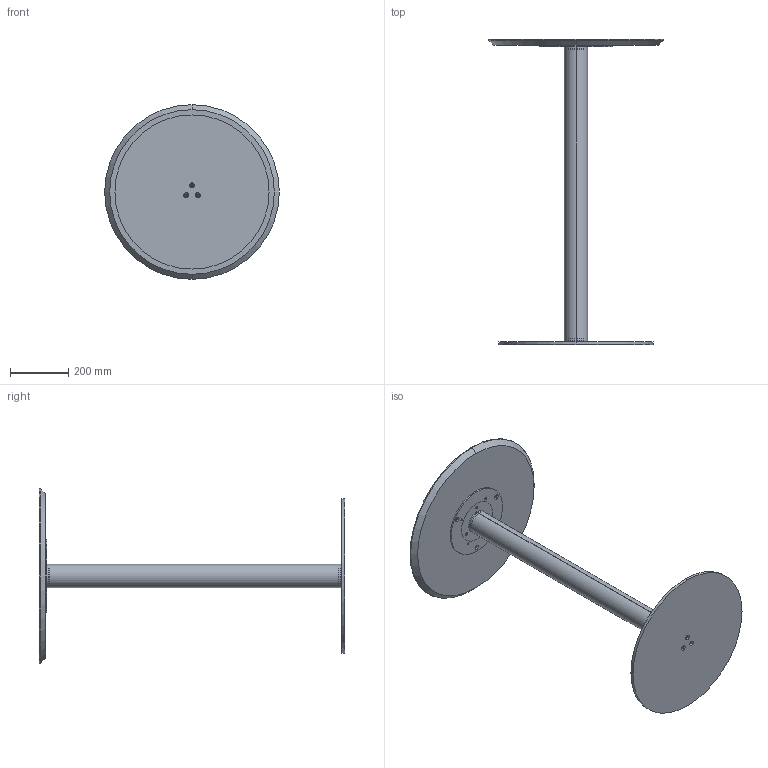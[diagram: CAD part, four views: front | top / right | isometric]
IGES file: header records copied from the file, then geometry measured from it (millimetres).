
Start section: SolidWorks IGES file using analytic representation for surfaces
Global section: file name: Y:\eforma\TECNICO\SOLIDWORKS\E-FORMA\5-TAVOLINI BISTRO\CILINDRO BISTRÒ H105\02 parts\CB10W.IGS; native system: SolidWorks 2022; preprocessor: SolidWorks 2022; author: eforma.tech; date: 240808.105404; units: millimetre
Bounding box: 600 x 1049 x 600 mm (x, y, z)
Volume: 8455971 mm3; surface area: 1701618.9 mm2
Topology: 7 solids, 7 shells, 132 faces, 312 edges, 190 vertices
Faces by surface type: revolution 118, plane 14
